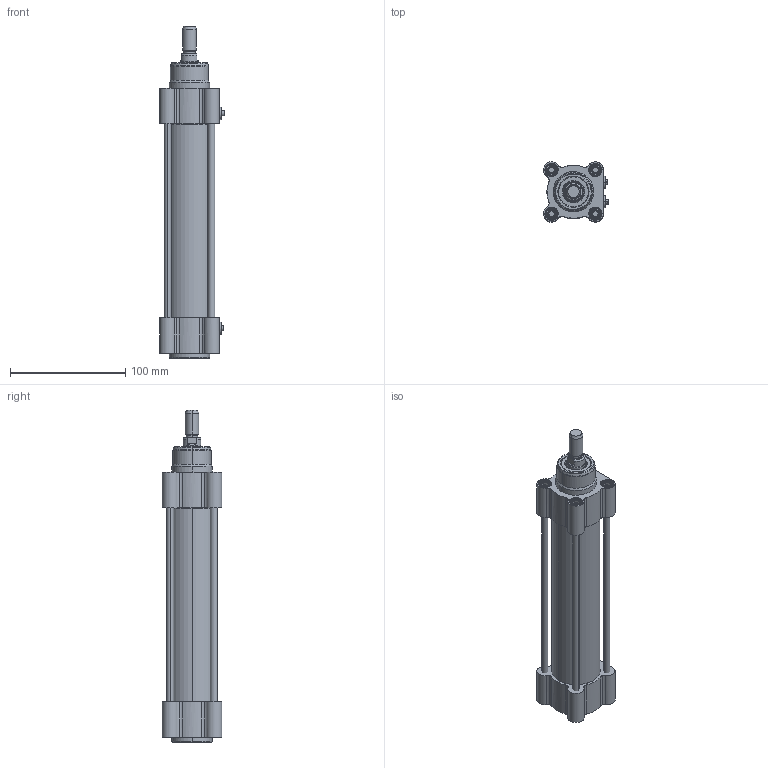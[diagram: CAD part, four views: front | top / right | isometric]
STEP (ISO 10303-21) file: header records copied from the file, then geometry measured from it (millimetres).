
FILE_DESCRIPTION (( 'STEP AP203' ), '1' );
FILE_NAME ('CTMI40-125.STEP', '2020-03-26T19:13:13', ( '' ), ( '' ), 'SwSTEP 2.0', 'SolidWorks 2019', '' );
FILE_SCHEMA (( 'CONFIG_CONTROL_DESIGN' ));
Products named in the file (1): CTMI40-125
Bounding box: 56.39 x 52 x 288 mm (x, y, z)
Surface area: 116655.4 mm2 (no closed solid volume)
Topology: 0 solids, 24 shells, 689 faces, 1578 edges, 970 vertices
Faces by surface type: cylinder 201, cone 195, plane 193, torus 84, bspline 16
Entity records: 29688 total; most frequent: CARTESIAN_POINT 16244, ORIENTED_EDGE 3112, DIRECTION 2051, EDGE_CURVE 1578, B_SPLINE_CURVE_WITH_KNOTS 995, VERTEX_POINT 970, AXIS2_PLACEMENT_3D 842, EDGE_LOOP 764
